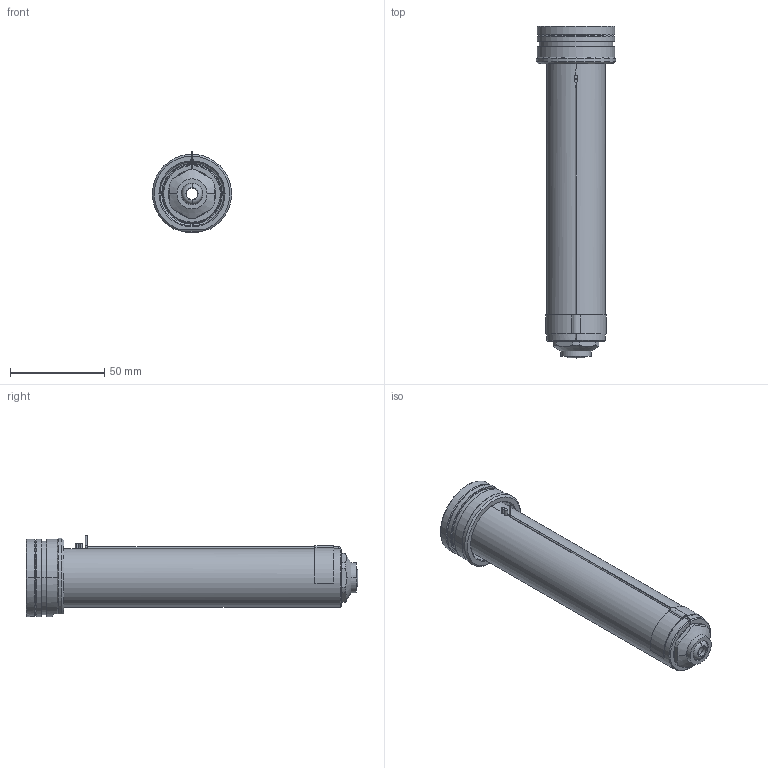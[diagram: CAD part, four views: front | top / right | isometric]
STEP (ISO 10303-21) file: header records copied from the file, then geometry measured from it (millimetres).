
FILE_DESCRIPTION((''),'2;1');
FILE_NAME('EO12_VG-BL_STD_160_SW','2024-02-19T13:14:28',('sundharh'),(''),'CREO PARAMETRIC BY PTC INC, 2023154','CREO PARAMETRIC BY PTC INC, 2023154','');
FILE_SCHEMA(('CONFIG_CONTROL_DESIGN'));
Length unit declared in the file: millimetre
Products named in the file (1): EO12_VG-BL_STD_160_SW
Bounding box: 41.85 x 175.8 x 43 mm (x, y, z)
Volume: 118260.9 mm3; surface area: 31759.4 mm2
Topology: 2 solids, 3 shells, 204 faces, 498 edges, 300 vertices
Faces by surface type: cylinder 73, plane 46, cone 39, torus 35, bspline 9, sphere 2
Entity records: 6841 total; most frequent: CARTESIAN_POINT 1937, DIRECTION 1100, ORIENTED_EDGE 988, EDGE_CURVE 494, AXIS2_PLACEMENT_3D 464, VERTEX_POINT 300, CIRCLE 269, EDGE_LOOP 220
